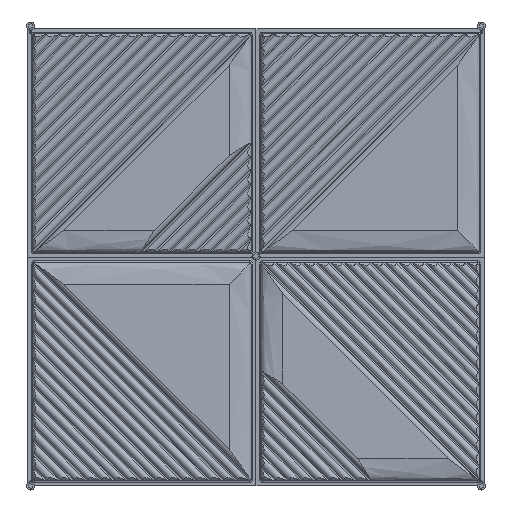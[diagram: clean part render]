
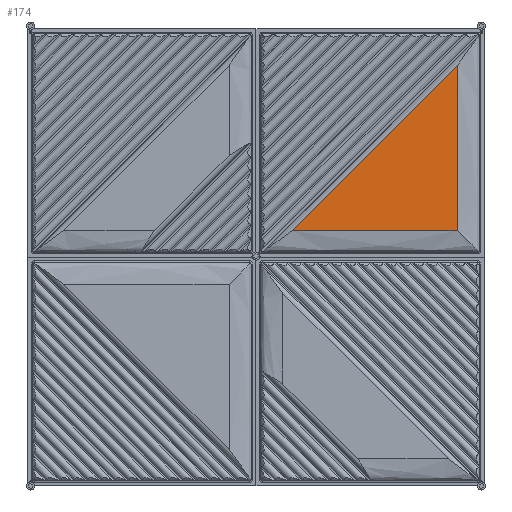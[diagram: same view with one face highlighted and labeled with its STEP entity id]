
A CAD part, top view. The second image highlights one B-rep face of the part: STEP entity #174.
In plain terms, the highlighted planar face has unit normal (0, 0, 1).
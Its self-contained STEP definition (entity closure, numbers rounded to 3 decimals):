
#174=ADVANCED_FACE('',(#987),#12212,.T.);
#987=FACE_OUTER_BOUND('',#1767,.T.);
#1767=EDGE_LOOP('',(#3130,#3131,#3132));
#3130=ORIENTED_EDGE('',*,*,#6643,.F.);
#3131=ORIENTED_EDGE('',*,*,#6688,.F.);
#3132=ORIENTED_EDGE('',*,*,#6650,.F.);
#6643=EDGE_CURVE('',#10488,#10487,#9326,.T.);
#6650=EDGE_CURVE('',#10487,#10494,#9332,.T.);
#6688=EDGE_CURVE('',#10494,#10488,#9369,.T.);
#9326=B_SPLINE_CURVE_WITH_KNOTS('',1,(#18667,#18668),.UNSPECIFIED.,.F.,
 .F.,(2,2),(151.633,585.954),.UNSPECIFIED.);
#9332=B_SPLINE_CURVE_WITH_KNOTS('',1,(#18717,#18718),.UNSPECIFIED.,.F.,
 .F.,(2,2),(129.916,564.237),.UNSPECIFIED.);
#9369=B_SPLINE_CURVE_WITH_KNOTS('',1,(#19391,#19392),.UNSPECIFIED.,.F.,
 .F.,(2,2),(-696.866,-82.643),.UNSPECIFIED.);
#10487=VERTEX_POINT('',#15016);
#10488=VERTEX_POINT('',#15017);
#10494=VERTEX_POINT('',#15023);
#12212=PLANE('',#12473);
#12473=AXIS2_PLACEMENT_3D('',#13868,#12926,$);
#12926=DIRECTION('',(0.,0.,1.));
#13868=CARTESIAN_POINT('',(18906.893,49.468,-14.));
#15016=CARTESIAN_POINT('',(18197.953,-513.188,-14.));
#15017=CARTESIAN_POINT('',(18197.953,-78.867,-14.));
#15023=CARTESIAN_POINT('',(17763.631,-513.188,-14.));
#18667=CARTESIAN_POINT('',(18197.953,-78.867,-14.));
#18668=CARTESIAN_POINT('',(18197.953,-513.188,-14.));
#18717=CARTESIAN_POINT('',(18197.953,-513.188,-14.));
#18718=CARTESIAN_POINT('',(17763.631,-513.188,-14.));
#19391=CARTESIAN_POINT('',(17763.631,-513.188,-14.));
#19392=CARTESIAN_POINT('',(18197.953,-78.867,-14.));
